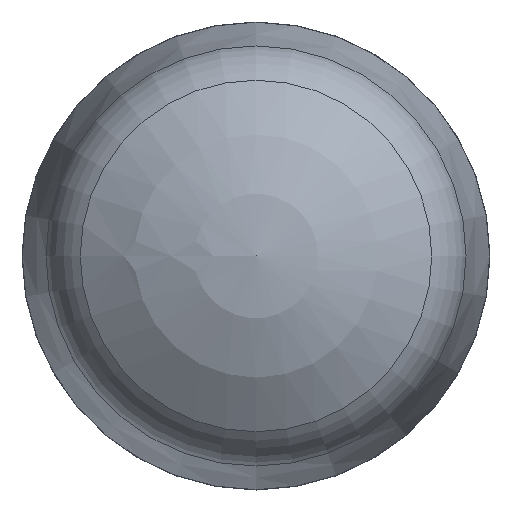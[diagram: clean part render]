
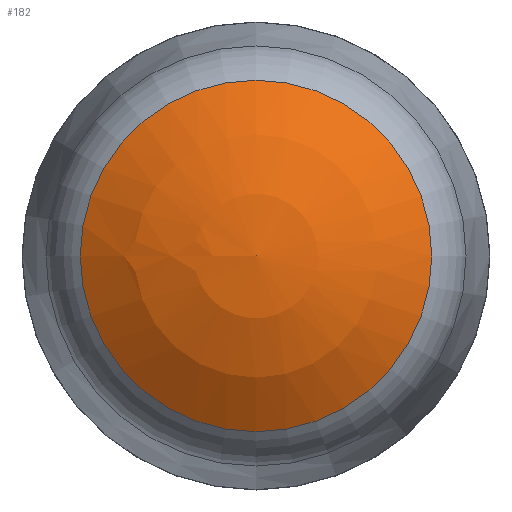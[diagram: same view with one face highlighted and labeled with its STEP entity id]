
A CAD part, front view. The second image highlights one B-rep face of the part: STEP entity #182.
In plain terms, the highlighted spherical face has radius 10 mm.
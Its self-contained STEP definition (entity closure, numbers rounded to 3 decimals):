
#182 = ADVANCED_FACE( '', ( #217, #218 ), #219, .T. );
#217 = FACE_BOUND( '', #293, .T. );
#218 = FACE_OUTER_BOUND( '', #294, .T. );
#219 = SPHERICAL_SURFACE( '', #295, 10. );
#293 = VERTEX_LOOP( '', #370 );
#294 = EDGE_LOOP( '', ( #371 ) );
#295 = AXIS2_PLACEMENT_3D( '', #372, #373, #374 );
#370 = VERTEX_POINT( '', #568 );
#371 = ORIENTED_EDGE( '', *, *, #567, .T. );
#372 = CARTESIAN_POINT( '', ( 0., 10., 0. ) );
#373 = DIRECTION( '', ( 0., -1., 0. ) );
#374 = DIRECTION( '', ( -1., 0., 0. ) );
#567 = EDGE_CURVE( '', #623, #623, #624, .T. );
#568 = CARTESIAN_POINT( '', ( 0., 0., 0. ) );
#623 = VERTEX_POINT( '', #711 );
#624 = CIRCLE( '', #712, 5.927 );
#711 = CARTESIAN_POINT( '', ( 0., 1.945, -5.927 ) );
#712 = AXIS2_PLACEMENT_3D( '', #926, #927, #928 );
#926 = CARTESIAN_POINT( '', ( 0., 1.945, 0. ) );
#927 = DIRECTION( '', ( 0., -1., 0. ) );
#928 = DIRECTION( '', ( 0., 0., -1. ) );
